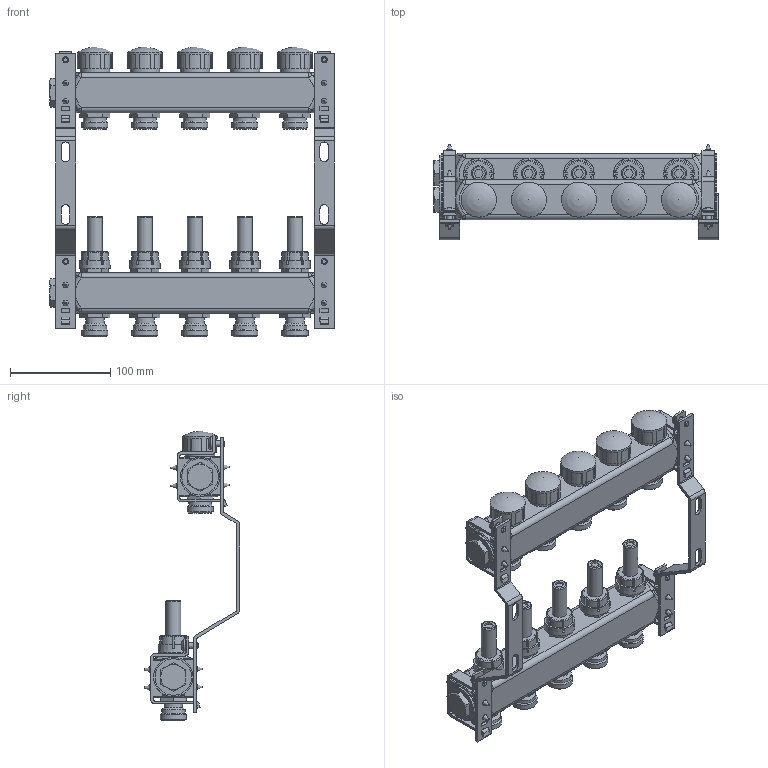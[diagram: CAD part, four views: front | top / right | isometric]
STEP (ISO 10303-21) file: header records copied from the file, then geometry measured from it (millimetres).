
FILE_DESCRIPTION(('STEP AP203'), '1');
FILE_NAME('VTc.584.EMNX.0605', '', ('UNSPECIFIED'), ('UNSPECIFIED'), 'C3D Converter', 'C3D Toolkit', '');
FILE_SCHEMA(('CONFIG_CONTROL_DESIGN'));
Length unit declared in the file: millimetre
Bounding box: 284.2 x 95.7 x 289.2 mm (x, y, z)
Volume: 1204881.6 mm3; surface area: 192713.4 mm2
Topology: 1 solids, 1 shells, 1253 faces, 3461 edges, 2235 vertices
Faces by surface type: plane 756, cylinder 289, torus 95, cone 72, bspline 36, sphere 5
Full cylindrical faces by diameter (mm): 5.4 x16, 6 x8, 12 x4, 15 x5, 18.4 x5, 22.9 x5, 23.5 x5, 25.9 x5, 26 x5, 29.5 x5, 34.9 x5, 35.3 x2, 36.5 x2, 39.3 x4
Entity records: 51125 total; most frequent: CARTESIAN_POINT 19997, ORIENTED_EDGE 6564, DIRECTION 6188, EDGE_CURVE 3282, VERTEX_POINT 2226, AXIS2_PLACEMENT_3D 2136, LINE 1916, VECTOR 1916
